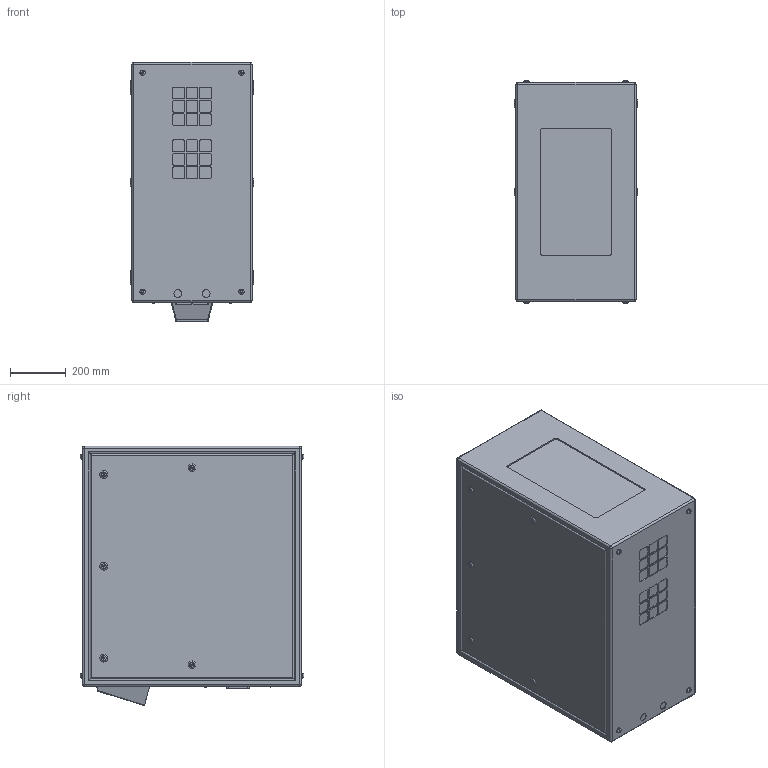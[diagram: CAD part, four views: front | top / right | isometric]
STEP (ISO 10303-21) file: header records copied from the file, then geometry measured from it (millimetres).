
FILE_DESCRIPTION (( 'STEP AP214' ), '1' );
FILE_NAME ('Blizzard 52.125.Px.xx R06.STEP', '2020-04-29T00:25:04', ( '' ), ( '' ), 'SwSTEP 2.0', 'SolidWorks 2018', '' );
FILE_SCHEMA (( 'AUTOMOTIVE_DESIGN' ));
Length unit declared in the file: inch
Products named in the file (1): Blizzard 52.125.Px.xx R06
Bounding box: 444.5 x 803.66 x 933.2 mm (x, y, z)
Volume: 293342299.9 mm3; surface area: 3139149.8 mm2
Topology: 1 solids, 5 shells, 614 faces, 1447 edges, 928 vertices
Faces by surface type: plane 331, cylinder 225, torus 48, sphere 10
Entity records: 21311 total; most frequent: DIRECTION 3159, CARTESIAN_POINT 3042, ORIENTED_EDGE 2878, EDGE_CURVE 1439, AXIS2_PLACEMENT_3D 1125, VERTEX_POINT 928, LINE 909, VECTOR 909
